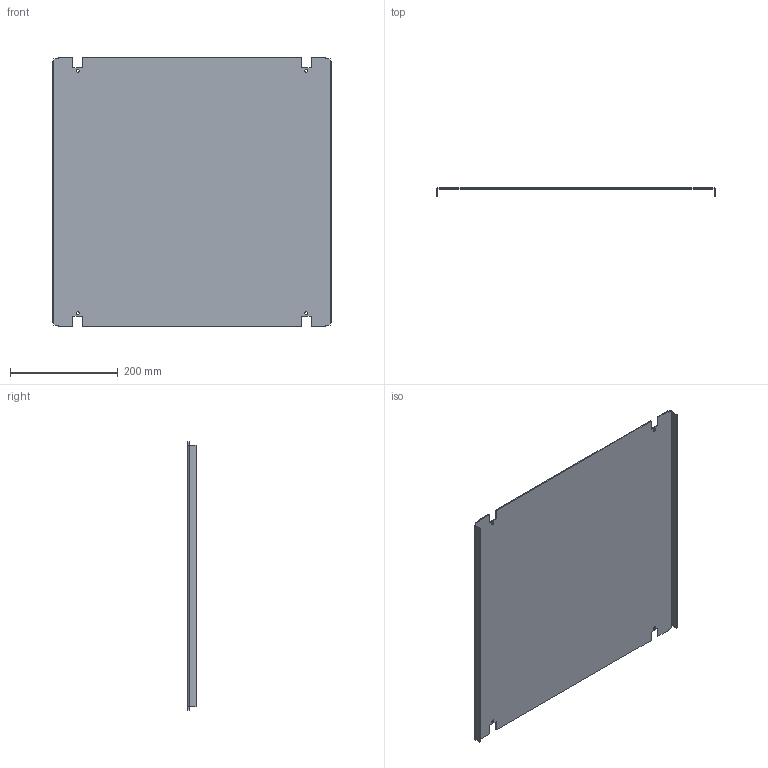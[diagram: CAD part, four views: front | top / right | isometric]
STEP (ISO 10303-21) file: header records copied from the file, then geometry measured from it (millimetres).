
FILE_DESCRIPTION(('CAx-IF Rec.Pracs.---Model Styling and Organization---1.2---2011-12-15','CAx-IF Rec.Pracs.---Geometric and Assembly Validation Properties---4.1---2014-06-16','CAx-IF Rec.Pracs.---PMI Polyline Presentation---2.0---2013-05-24'),'2;1');
FILE_NAME('R5CPL655.stp','2021-05-06T03:45:28+03:00',(''),(''),'STEP Interface 4.4 by CT CoreTechnologie','3D_Evolution4.4 by CT CoreTechnologie','');
FILE_SCHEMA(('AUTOMOTIVE_DESIGN { 1 0 10303 214 1 1 1 1 }'));
Length unit declared in the file: millimetre
Products named in the file (2): R5CPL655; RB.0902.00.00.0_-05
Assembly tree (1 placements, depth 2):
  R5CPL655
    RB.0902.00.00.0_-05
Bounding box: 519 x 15 x 499 mm (x, y, z)
Surface area: 543240.4 mm2 (no closed solid volume)
Topology: 0 solids, 1 shells, 56 faces, 158 edges, 104 vertices
Faces by surface type: plane 44, cylinder 12
Entity records: 1883 total; most frequent: CARTESIAN_POINT 320, ORIENTED_EDGE 316, DIRECTION 298, EDGE_CURVE 158, VECTOR 134, LINE 134, VERTEX_POINT 104, AXIS2_PLACEMENT_3D 82
